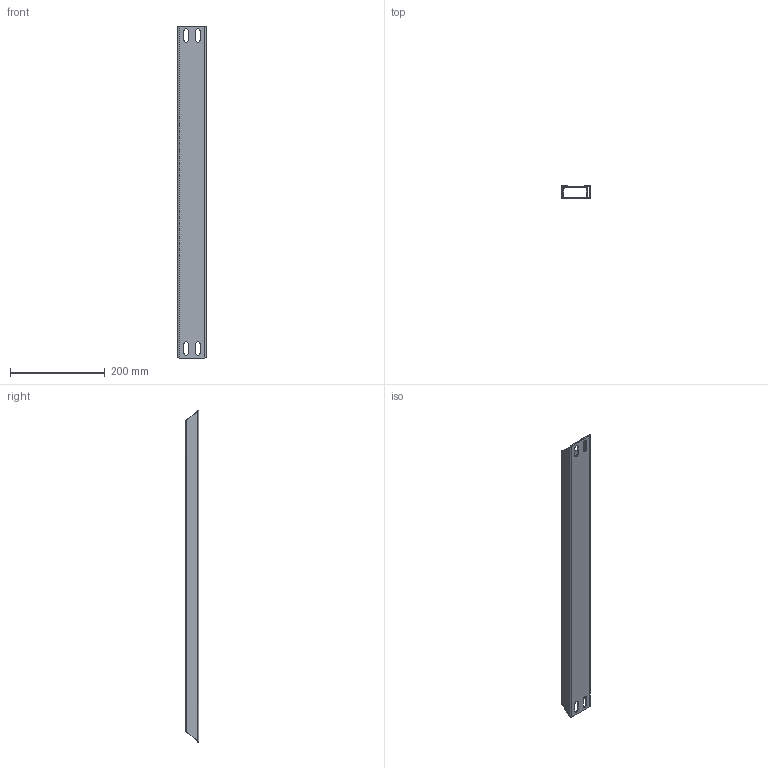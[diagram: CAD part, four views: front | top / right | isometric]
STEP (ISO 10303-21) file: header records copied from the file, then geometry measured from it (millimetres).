
FILE_DESCRIPTION (( 'STEP AP214' ), '1' );
FILE_NAME ('ÎïîðàÒðàíñôîðìàòîðà800(258928).STEP', '2018-07-16T10:11:01', ( '' ), ( '' ), 'SwSTEP 2.0', 'SolidWorks 2018', '' );
FILE_SCHEMA (( 'AUTOMOTIVE_DESIGN' ));
Length unit declared in the file: millimetre
Products named in the file (3): ÎïîðàÒðàíñôîðìàòîðà800(258928); ÎïðîðàÂíóòð; ÎïîðàÒðàíñôîðìàòîðà800Âíåø
Assembly tree (3 placements, depth 2):
  ÎïîðàÒðàíñôîðìàòîðà800(258928)
    ÎïîðàÒðàíñôîðìàòîðà800Âíåø
    ÎïðîðàÂíóòð  x2
Bounding box: 61 x 28 x 699 mm (x, y, z)
Volume: 238285.9 mm3; surface area: 196715.7 mm2
Topology: 3 solids, 3 shells, 107 faces, 239 edges, 138 vertices
Faces by surface type: plane 66, cylinder 32, bspline 9
Entity records: 2723 total; most frequent: CARTESIAN_POINT 797, ORIENTED_EDGE 378, DIRECTION 359, EDGE_CURVE 189, VECTOR 127, LINE 127, AXIS2_PLACEMENT_3D 116, VERTEX_POINT 110
